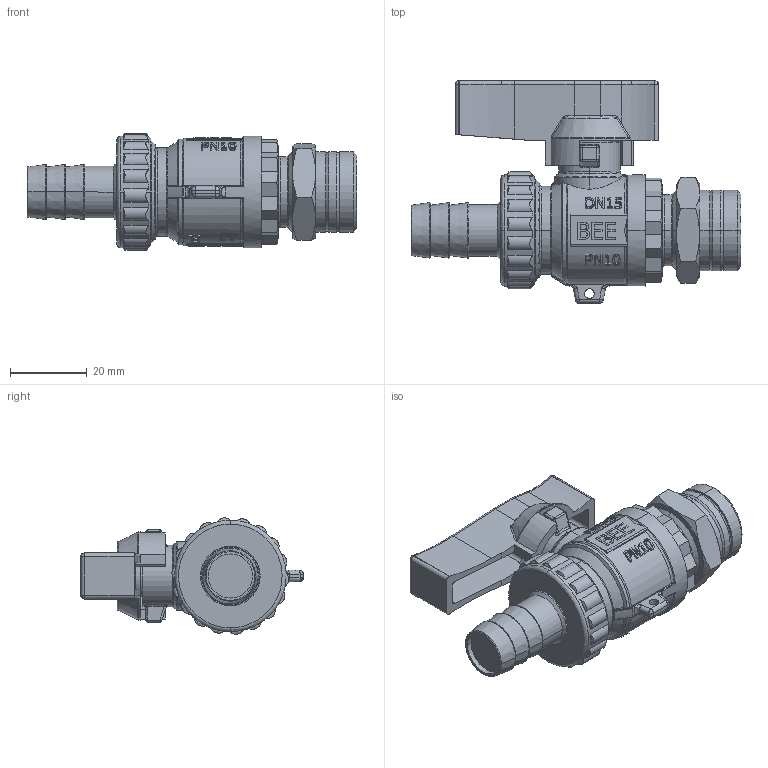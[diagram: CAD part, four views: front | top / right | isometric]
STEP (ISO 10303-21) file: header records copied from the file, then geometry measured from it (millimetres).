
FILE_DESCRIPTION (( 'STEP AP214' ), '1' );
FILE_NAME ('Valvula de bola.STEP', '2020-10-15T21:17:13', ( '' ), ( '' ), 'SwSTEP 2.0', 'SolidWorks 2017', '' );
FILE_SCHEMA (( 'AUTOMOTIVE_DESIGN' ));
Length unit declared in the file: millimetre
Products named in the file (1): Valvula de bola
Bounding box: 86 x 58 x 30.33 mm (x, y, z)
Surface area: 15619.1 mm2 (no closed solid volume)
Topology: 0 solids, 8 shells, 1152 faces, 3022 edges, 1941 vertices
Faces by surface type: plane 548, bspline 316, cylinder 213, cone 75
Entity records: 57101 total; most frequent: CARTESIAN_POINT 29542, ORIENTED_EDGE 6016, DIRECTION 4558, EDGE_CURVE 3012, VERTEX_POINT 1941, LINE 1684, VECTOR 1684, AXIS2_PLACEMENT_3D 1437
